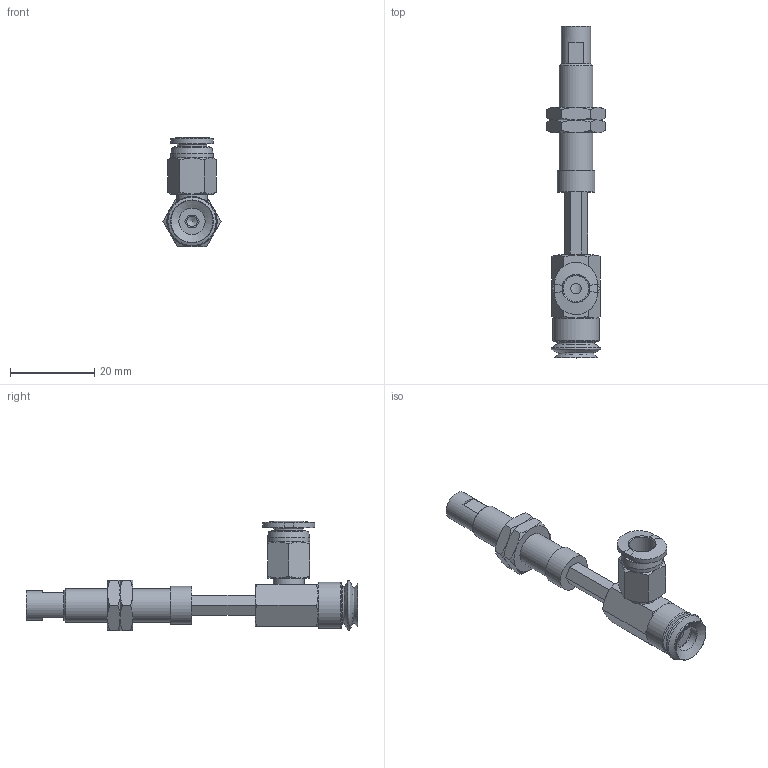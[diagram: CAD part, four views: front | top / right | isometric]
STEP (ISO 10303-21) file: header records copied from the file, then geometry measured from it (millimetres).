
FILE_DESCRIPTION(('STEP AP203'),'1');
FILE_NAME('-O.stp','2025-04-24T06:36:23',(' '),(' '),'Spatial InterOp 3D',' ',' ');
FILE_SCHEMA(('CONFIG_CONTROL_DESIGN'));
Length unit declared in the file: millimetre
Products named in the file (8): BNABPJYH-10-15-※-O; Adapter-10-NAPJ; CONNECTOR_H-10-15; NAPJH-10-15-NUT; NAPJTH-10-15-FBODY; NAPJTH-10-15-MBODY; BPJG-10-※; PC-C_06-M5
Assembly tree (8 placements, depth 2):
  BNABPJYH-10-15-※-O
    Adapter-10-NAPJ
    CONNECTOR_H-10-15
    NAPJH-10-15-NUT  x2
    NAPJTH-10-15-FBODY
    NAPJTH-10-15-MBODY
    BPJG-10-※
    PC-C_06-M5
Bounding box: 13.86 x 79 x 25.98 mm (x, y, z)
Volume: 4529.6 mm3; surface area: 6193.6 mm2
Topology: 7 solids, 10 shells, 200 faces, 429 edges, 262 vertices
Faces by surface type: plane 87, cone 72, cylinder 25, torus 9, bspline 4, revolution 3
Full cylindrical faces by diameter (mm): 2.5 x1, 4 x2, 4.134 x3, 4.6 x1, 5 x3, 6.266 x1, 7 x2, 7.188 x2, 7.4 x1, 7.8 x1, 8 x2, 8.2 x1, 9 x1, 10 x1, 11 x1
Entity records: 5412 total; most frequent: CARTESIAN_POINT 1558, DIRECTION 713, ORIENTED_EDGE 626, EDGE_CURVE 315, AXIS2_PLACEMENT_3D 299, EDGE_LOOP 256, VERTEX_POINT 222, FACE_OUTER_BOUND 148
